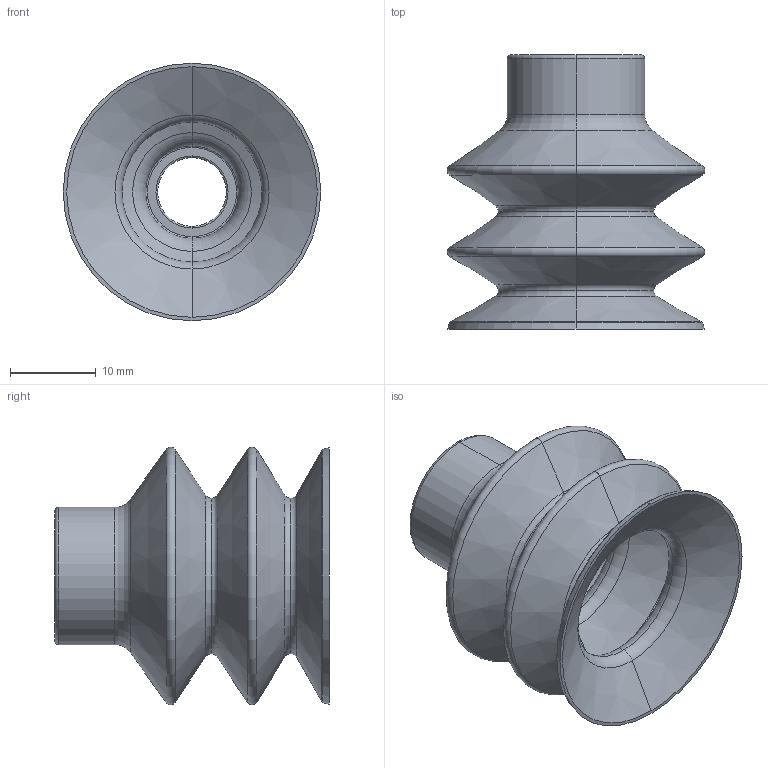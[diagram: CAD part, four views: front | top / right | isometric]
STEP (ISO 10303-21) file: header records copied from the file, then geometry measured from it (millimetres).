
FILE_DESCRIPTION (( 'STEP AP203' ), '1' );
FILE_NAME ('2_30--A.STEP', '2017-04-14T09:08:48', ( '' ), ( '' ), 'SwSTEP 2.0', 'SolidWorks 2016', '' );
FILE_SCHEMA (( 'CONFIG_CONTROL_DESIGN' ));
Length unit declared in the file: millimetre
Products named in the file (1): 2_30--A
Bounding box: 30 x 32 x 30 mm (x, y, z)
Volume: 4029.7 mm3; surface area: 6522.5 mm2
Topology: 1 solids, 1 shells, 69 faces, 138 edges, 72 vertices
Faces by surface type: torus 38, cone 22, cylinder 6, plane 3
Entity records: 1863 total; most frequent: DIRECTION 388, CARTESIAN_POINT 280, ORIENTED_EDGE 276, AXIS2_PLACEMENT_3D 180, EDGE_CURVE 138, CIRCLE 110, VERTEX_POINT 72, EDGE_LOOP 72
